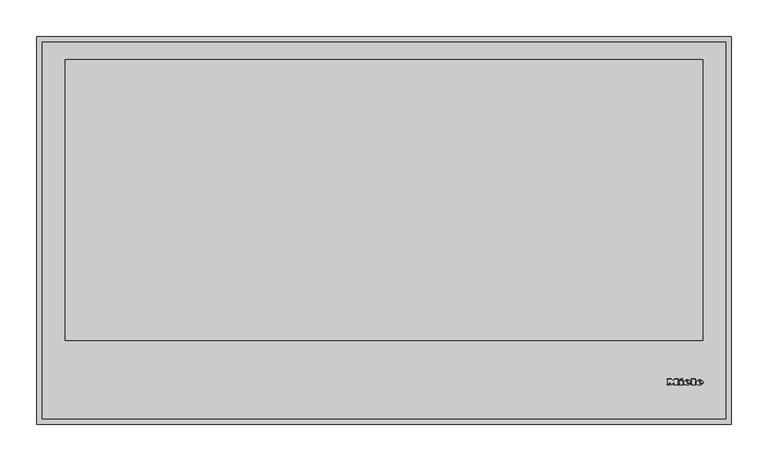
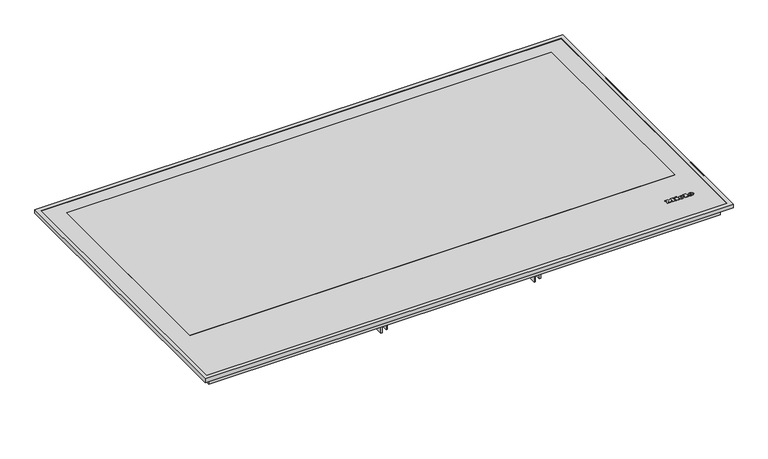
"""IFC4 building model written with IfcOpenShell, lengths in millimetres: proxy geometry, 11128760_D_KM7697FR : 26769700_D_11128760_KM7697FR."""

from ifc_helpers import new_model, si_unit, point, frame, frame_2d, origin, place, context, project, spatial, polyline, circle_curve, ellipse_curve, trimmed, segment, composite_curve, outline, extrude, faceted_brep, source, transform, mapped, element, save
from ifc_brep_helpers import plane_surface, cylinder_surface, revolved_surface, extruded_surface, advanced_brep


def specialty_equipment_5698b96c(model_context):
    return source(origin(), model_context, "Body", "SolidModel", [
        advanced_brep(
        [(427.56, 55.3948833, 6.4802537), (427.56, 56.2028828, 6.4811551), (432.912, 56.2028828, 6.4811551), (423.6, 56.2028828, 6.4811551), (425.8, 53.4988845, 6.4781386), (432.776, 55.3948833, 6.4802537), (430.36, 55.3948833, 6.4802537), (428.456, 54.4988838, 6.4792542), (427.56, 57.2268821, 6.4822974), (427.56, 58.0988816, 6.4832701), (428.928, 58.0988816, 6.4832701), (428.928, 57.2268821, 6.4822974), (427.56, 55.3959988, 5.4802543), (428.456, 54.4999994, 5.4792548), (430.36, 55.3959988, 5.4802543), (432.776, 55.3959988, 5.4802543), (425.8, 53.5, 5.4781393), (423.6, 56.2039983, 5.4811557), (432.912, 56.2039983, 5.4811557), (427.56, 56.2039983, 5.4811557), (427.56, 57.2279977, 5.482298), (428.928, 57.2279977, 5.482298), (428.928, 58.0999971, 5.4832707), (427.56, 58.0999971, 5.4832707)],
        [
            (0, 1),
            (1, 2),
            (2, 3, ellipse_curve(frame((428.256, 56.2028828, 6.4811551), z_axis=(0.0, -0.0011155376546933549, 0.9999993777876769), x_axis=(-1.0, 0.0, 0.0)), 4.656, 3.848)),
            (3, 4, circle_curve(frame((426.6960436, 56.4748826, 6.4814585), z_axis=(0.0, -0.0011155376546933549, 0.9999993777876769), x_axis=(0.0, -0.9999993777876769, -0.0011155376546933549)), 3.1079688)),
            (4, 5, circle_curve(frame((428.1627936, 58.5868813, 6.4838145), z_axis=(0.0, -0.0011155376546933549, 0.9999993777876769), x_axis=(0.0, -0.9999993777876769, -0.0011155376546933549)), 5.6098607)),
            (5, 6),
            (6, 7, circle_curve(frame((428.8470588, 56.1388828, 6.4810837), z_axis=(0.0, 0.0011155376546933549, -0.9999993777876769), x_axis=(0.0, -0.9999993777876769, -0.0011155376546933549)), 1.6859795)),
            (7, 0, circle_curve(frame((428.456, 55.3948833, 6.4802537), z_axis=(0.0, 0.0011155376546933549, -0.9999993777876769), x_axis=(0.0, -0.9999993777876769, -0.0011155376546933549)), 0.896)),
            (8, 9),
            (9, 10, circle_curve(frame((428.244, 58.0988816, 6.4832701), z_axis=(0.0, 0.0011155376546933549, -0.9999993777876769), x_axis=(0.0, -0.9999993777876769, -0.0011155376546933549)), 0.684)),
            (10, 11),
            (11, 8),
            (12, 13, circle_curve(frame((428.456, 55.3959988, 5.4802543), z_axis=(0.0, -0.0011155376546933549, 0.9999993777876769), x_axis=(0.0, -0.9999993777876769, -0.0011155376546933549)), 0.896)),
            (13, 14, circle_curve(frame((428.8470588, 56.1399984, 5.4810843), z_axis=(0.0, -0.0011155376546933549, 0.9999993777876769), x_axis=(0.0, -0.9999993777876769, -0.0011155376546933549)), 1.6859795)),
            (14, 15),
            (15, 16, circle_curve(frame((428.1627936, 58.5879968, 5.4838151), z_axis=(0.0, 0.0011155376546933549, -0.9999993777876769), x_axis=(0.0, -0.9999993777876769, -0.0011155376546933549)), 5.6098607)),
            (16, 17, circle_curve(frame((426.6960436, 56.4759981, 5.4814591), z_axis=(0.0, 0.0011155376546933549, -0.9999993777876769), x_axis=(0.0, -0.9999993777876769, -0.0011155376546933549)), 3.1079688)),
            (17, 18, ellipse_curve(frame((428.256, 56.2039983, 5.4811557), z_axis=(0.0, 0.0011155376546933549, -0.9999993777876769), x_axis=(-1.0, 0.0, 0.0)), 4.656, 3.848)),
            (18, 19),
            (19, 12),
            (20, 21),
            (21, 22),
            (22, 23, circle_curve(frame((428.244, 58.0999971, 5.4832707), z_axis=(0.0, -0.0011155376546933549, 0.9999993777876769), x_axis=(0.0, -0.9999993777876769, -0.0011155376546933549)), 0.684)),
            (23, 20),
            (0, 12),
            (19, 1),
            (18, 2),
            (5, 15),
            (14, 6),
            (17, 3),
            (13, 7),
            (16, 4),
            (8, 20),
            (23, 9),
            (22, 10),
            (21, 11),
        ],
        [
            plane_surface(frame((427.56, 56.2028828, 6.4811551), z_axis=(0.0, -0.0011155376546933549, 0.9999993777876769), x_axis=(0.0, 0.9999993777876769, 0.0011155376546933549))),
            plane_surface(frame((427.56, 56.2039983, 5.4811557), z_axis=(0.0, 0.0011155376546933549, -0.9999993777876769), x_axis=(0.0, -0.9999993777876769, -0.0011155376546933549))),
            plane_surface(frame((427.56, 55.3948833, 6.4802537), z_axis=(1.0000000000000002, 0.0, 0.0), x_axis=(0.0, 0.001115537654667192, -0.999999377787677))),
            plane_surface(frame((427.56, 56.2028828, 6.4811551), z_axis=(0.0, -0.999999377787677, -0.001115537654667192), x_axis=(0.0, 0.001115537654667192, -0.999999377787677))),
            plane_surface(frame((432.776, 55.3948833, 6.4802537), z_axis=(0.0, 0.999999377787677, 0.001115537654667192), x_axis=(0.0, 0.001115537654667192, -0.999999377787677))),
            extruded_surface(trimmed(ellipse_curve(frame((428.256, 56.2051139, 4.4811563), z_axis=(0.0, -0.0011155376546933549, 0.9999993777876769), x_axis=(-1.0, 0.0, 0.0)), 4.656, 3.848), [point((432.912, 56.2051139, 4.4811563))], [point((423.6, 56.2051139, 4.4811563))], True, "CARTESIAN"), (0.0, -0.001115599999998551, 0.9999994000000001), 1.00000002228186),
            revolved_surface(polyline([(428.8470588, 54.454019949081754, 5.479203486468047), (428.8470588, 54.45290441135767, 6.4792029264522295)]), (428.8470588, 56.1399984, 5.4810843), (0.0, 0.0011155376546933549, -0.9999993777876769)),
            revolved_surface(polyline([(428.456, 54.49999935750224, 5.479254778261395), (428.456, 54.49888381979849, 6.479254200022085)]), (428.456, 55.3959988, 5.4802543), (0.0, 0.0011155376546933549, -0.9999993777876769)),
            cylinder_surface(frame((426.6960436, 56.4759981, 5.4814591), z_axis=(0.0, -0.0011155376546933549, 0.9999993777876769), x_axis=(0.0, -0.9999993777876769, -0.0011155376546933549)), 3.1079688),
            cylinder_surface(frame((428.1627936, 58.5879968, 5.4838151), z_axis=(0.0, -0.0011155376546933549, 0.9999993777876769), x_axis=(0.0, -0.9999993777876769, -0.0011155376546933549)), 5.6098607),
            plane_surface(frame((427.56, 57.2268821, 6.4822974), z_axis=(1.0000000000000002, 0.0, 0.0), x_axis=(0.0, 0.001115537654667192, -0.999999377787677))),
            revolved_surface(polyline([(428.244, 57.415997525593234, 5.48250767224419), (428.244, 57.41488198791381, 6.482507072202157)]), (428.244, 58.0999971, 5.4832707), (0.0, 0.0011155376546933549, -0.9999993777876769)),
            plane_surface(frame((428.928, 58.0988816, 6.4832701), z_axis=(-1.0000000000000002, 0.0, 0.0), x_axis=(0.0, 0.001115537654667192, -0.999999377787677))),
            plane_surface(frame((428.928, 57.2268821, 6.4822974), z_axis=(0.0, 0.999999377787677, 0.001115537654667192), x_axis=(0.0, 0.001115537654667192, -0.999999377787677))),
        ],
        [
            (0, [[1, 2, 3, 4, 5, 6, 7, 8], [9, 10, 11, 12]]),
            (1, [[13, 14, 15, 16, 17, 18, 19, 20], [21, 22, 23, 24]]),
            (2, [[-1, 25, -20, 26]]),
            (3, [[-2, -26, -19, 27]]),
            (4, [[-6, 28, -15, 29]]),
            (5, [[-3, -27, -18, 30]]),
            (6, [[-7, -29, -14, 31]]),
            (7, [[-8, -31, -13, -25]]),
            (8, [[-4, -30, -17, 32]]),
            (9, [[-5, -32, -16, -28]]),
            (10, [[-9, 33, -24, 34]]),
            (11, [[-10, -34, -23, 35]]),
            (12, [[-11, -35, -22, 36]]),
            (13, [[-12, -36, -21, -33]]),
        ],
    ),
        advanced_brep(
        [(410.864, 55.3948833, 6.4802537), (410.864, 56.2028828, 6.4811551), (416.216, 56.2028828, 6.4811551), (406.904, 56.2028828, 6.4811551), (409.104, 53.4988845, 6.4781386), (416.08, 55.3948833, 6.4802537), (413.664, 55.3948833, 6.4802537), (411.76, 54.4988838, 6.4792542), (410.864, 57.2268821, 6.4822974), (410.864, 58.0988816, 6.4832701), (412.232, 58.0988816, 6.4832701), (412.232, 57.2268821, 6.4822974), (410.864, 55.3959988, 5.4802543), (411.76, 54.4999994, 5.4792548), (413.664, 55.3959988, 5.4802543), (416.08, 55.3959988, 5.4802543), (409.104, 53.5, 5.4781393), (406.904, 56.2039983, 5.4811557), (416.216, 56.2039983, 5.4811557), (410.864, 56.2039983, 5.4811557), (410.864, 57.2279977, 5.482298), (412.232, 57.2279977, 5.482298), (412.232, 58.0999971, 5.4832707), (410.864, 58.0999971, 5.4832707)],
        [
            (0, 1),
            (1, 2),
            (2, 3, ellipse_curve(frame((411.56, 56.2028828, 6.4811551), z_axis=(0.0, -0.0011155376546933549, 0.9999993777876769), x_axis=(-1.0, 0.0, 0.0)), 4.656, 3.848)),
            (3, 4, circle_curve(frame((410.0000436, 56.4748826, 6.4814585), z_axis=(0.0, -0.0011155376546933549, 0.9999993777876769), x_axis=(0.0, -0.9999993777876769, -0.0011155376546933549)), 3.1079688)),
            (4, 5, circle_curve(frame((411.4667936, 58.5868813, 6.4838145), z_axis=(0.0, -0.0011155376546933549, 0.9999993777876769), x_axis=(0.0, -0.9999993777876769, -0.0011155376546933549)), 5.6098607)),
            (5, 6),
            (6, 7, circle_curve(frame((412.1510588, 56.1388828, 6.4810837), z_axis=(0.0, 0.0011155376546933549, -0.9999993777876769), x_axis=(0.0, -0.9999993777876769, -0.0011155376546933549)), 1.6859795)),
            (7, 0, circle_curve(frame((411.76, 55.3948833, 6.4802537), z_axis=(0.0, 0.0011155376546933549, -0.9999993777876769), x_axis=(0.0, -0.9999993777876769, -0.0011155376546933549)), 0.896)),
            (8, 9),
            (9, 10, circle_curve(frame((411.548, 58.0988816, 6.4832701), z_axis=(0.0, 0.0011155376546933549, -0.9999993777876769), x_axis=(0.0, -0.9999993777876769, -0.0011155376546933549)), 0.684)),
            (10, 11),
            (11, 8),
            (12, 13, circle_curve(frame((411.76, 55.3959988, 5.4802543), z_axis=(0.0, -0.0011155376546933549, 0.9999993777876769), x_axis=(0.0, -0.9999993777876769, -0.0011155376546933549)), 0.896)),
            (13, 14, circle_curve(frame((412.1510588, 56.1399984, 5.4810843), z_axis=(0.0, -0.0011155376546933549, 0.9999993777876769), x_axis=(0.0, -0.9999993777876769, -0.0011155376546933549)), 1.6859795)),
            (14, 15),
            (15, 16, circle_curve(frame((411.4667936, 58.5879968, 5.4838151), z_axis=(0.0, 0.0011155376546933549, -0.9999993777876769), x_axis=(0.0, -0.9999993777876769, -0.0011155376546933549)), 5.6098607)),
            (16, 17, circle_curve(frame((410.0000436, 56.4759981, 5.4814591), z_axis=(0.0, 0.0011155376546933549, -0.9999993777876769), x_axis=(0.0, -0.9999993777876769, -0.0011155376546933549)), 3.1079688)),
            (17, 18, ellipse_curve(frame((411.56, 56.2039983, 5.4811557), z_axis=(0.0, 0.0011155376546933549, -0.9999993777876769), x_axis=(-1.0, 0.0, 0.0)), 4.656, 3.848)),
            (18, 19),
            (19, 12),
            (20, 21),
            (21, 22),
            (22, 23, circle_curve(frame((411.548, 58.0999971, 5.4832707), z_axis=(0.0, -0.0011155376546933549, 0.9999993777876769), x_axis=(0.0, -0.9999993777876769, -0.0011155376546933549)), 0.684)),
            (23, 20),
            (0, 12),
            (19, 1),
            (18, 2),
            (5, 15),
            (14, 6),
            (17, 3),
            (13, 7),
            (16, 4),
            (8, 20),
            (23, 9),
            (22, 10),
            (21, 11),
        ],
        [
            plane_surface(frame((410.864, 56.2028828, 6.4811551), z_axis=(0.0, -0.0011155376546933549, 0.9999993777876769), x_axis=(0.0, 0.9999993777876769, 0.0011155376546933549))),
            plane_surface(frame((410.864, 56.2039983, 5.4811557), z_axis=(0.0, 0.0011155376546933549, -0.9999993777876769), x_axis=(0.0, -0.9999993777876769, -0.0011155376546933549))),
            plane_surface(frame((410.864, 55.3948833, 6.4802537), z_axis=(1.0000000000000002, 0.0, 0.0), x_axis=(0.0, 0.001115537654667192, -0.999999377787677))),
            plane_surface(frame((410.864, 56.2028828, 6.4811551), z_axis=(0.0, -0.999999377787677, -0.001115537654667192), x_axis=(0.0, 0.001115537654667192, -0.999999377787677))),
            plane_surface(frame((416.08, 55.3948833, 6.4802537), z_axis=(0.0, 0.999999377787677, 0.001115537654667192), x_axis=(0.0, 0.001115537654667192, -0.999999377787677))),
            extruded_surface(trimmed(ellipse_curve(frame((411.56, 56.2051139, 4.4811563), z_axis=(0.0, -0.0011155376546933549, 0.9999993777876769), x_axis=(-1.0, 0.0, 0.0)), 4.656, 3.848), [point((416.216, 56.2051139, 4.4811563))], [point((406.904, 56.2051139, 4.4811563))], True, "CARTESIAN"), (0.0, -0.001115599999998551, 0.9999994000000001), 1.00000002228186),
            revolved_surface(polyline([(412.1510588, 54.454019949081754, 5.479203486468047), (412.1510588, 54.45290441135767, 6.4792029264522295)]), (412.1510588, 56.1399984, 5.4810843), (0.0, 0.0011155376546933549, -0.9999993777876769)),
            revolved_surface(polyline([(411.76, 54.49999935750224, 5.479254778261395), (411.76, 54.49888381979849, 6.479254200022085)]), (411.76, 55.3959988, 5.4802543), (0.0, 0.0011155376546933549, -0.9999993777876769)),
            cylinder_surface(frame((410.0000436, 56.4759981, 5.4814591), z_axis=(0.0, -0.0011155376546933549, 0.9999993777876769), x_axis=(0.0, -0.9999993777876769, -0.0011155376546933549)), 3.1079688),
            cylinder_surface(frame((411.4667936, 58.5879968, 5.4838151), z_axis=(0.0, -0.0011155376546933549, 0.9999993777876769), x_axis=(0.0, -0.9999993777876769, -0.0011155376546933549)), 5.6098607),
            plane_surface(frame((410.864, 57.2268821, 6.4822974), z_axis=(1.0000000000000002, 0.0, 0.0), x_axis=(0.0, 0.001115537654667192, -0.999999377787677))),
            revolved_surface(polyline([(411.548, 57.415997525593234, 5.48250767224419), (411.548, 57.41488198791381, 6.482507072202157)]), (411.548, 58.0999971, 5.4832707), (0.0, 0.0011155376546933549, -0.9999993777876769)),
            plane_surface(frame((412.232, 58.0988816, 6.4832701), z_axis=(-1.0000000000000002, 0.0, 0.0), x_axis=(0.0, 0.001115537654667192, -0.999999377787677))),
            plane_surface(frame((412.232, 57.2268821, 6.4822974), z_axis=(0.0, 0.999999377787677, 0.001115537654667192), x_axis=(0.0, 0.001115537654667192, -0.999999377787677))),
        ],
        [
            (0, [[1, 2, 3, 4, 5, 6, 7, 8], [9, 10, 11, 12]]),
            (1, [[13, 14, 15, 16, 17, 18, 19, 20], [21, 22, 23, 24]]),
            (2, [[-1, 25, -20, 26]]),
            (3, [[-2, -26, -19, 27]]),
            (4, [[-6, 28, -15, 29]]),
            (5, [[-3, -27, -18, 30]]),
            (6, [[-7, -29, -14, 31]]),
            (7, [[-8, -31, -13, -25]]),
            (8, [[-4, -30, -17, 32]]),
            (9, [[-5, -32, -16, -28]]),
            (10, [[-9, 33, -24, 34]]),
            (11, [[-10, -34, -23, 35]]),
            (12, [[-11, -35, -22, 36]]),
            (13, [[-12, -36, -21, -33]]),
        ],
    ),
        extrude(outline(polyline([(0.0, 0.0), (-0.0109086, -2.9993294), (-1.4390415, -2.9920868), (-1.4315307, 0.0), (0.0, 0.0)])), frame((402.12, 61.0279953, 5.486537), z_axis=(0.0, -0.001115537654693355, 0.999999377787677), x_axis=(-0.42472021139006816, 0.9053240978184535, 0.0010099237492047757)), (0.0, 0.0, 1.0), 1.0),
        extrude(outline(polyline([(-0.4933908, 2.4141097), (-2.7800844, -2.4601583), (-7.0459741, -0.4588767), (-7.4401145, -1.299018), (-8.6568709, -0.728194), (-5.9760369, 4.9862153), (-4.7592805, 4.4153913), (-5.1636142, 3.5535222), (-2.1941493, 2.1604399), (-1.7898157, 3.022309), (-0.4933908, 2.4141097)])), frame((402.12, 61.0279953, 5.486537), z_axis=(0.0, -0.001115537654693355, 0.999999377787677), x_axis=(-0.42472021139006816, 0.9053240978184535, 0.0010099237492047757)), (0.0, 0.0, 1.0), 1.0),
        extrude(outline(polyline([(0.0, 0.0), (0.0, -1.304), (-5.504, -1.304), (-5.504, 5.3519999), (-6.488, 5.3519999), (-6.488, 6.696), (0.0, 6.696), (0.0, 5.3519999), (-0.96, 5.3519999), (-0.96, 0.0), (0.0, 0.0)])), frame((416.664, 60.1959958, 5.4856089), z_axis=(0.0, -0.0011155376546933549, 0.9999993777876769), x_axis=(-1.0, 0.0, 0.0)), (0.0, 0.0, 1.0), 1.0),
        extrude(outline(polyline([(0.0, 0.0), (0.0, -1.304), (-5.576, -1.304), (-7.92, 1.696), (-10.256, -1.304), (-15.128, -1.304), (-15.128, 0.0), (-14.112, 0.0), (-14.112, 5.3519999), (-15.128, 5.3519999), (-15.128, 6.696), (-8.744, 6.696), (-8.744, 5.3519999), (-9.728, 5.3519999), (-9.728, 1.8807777), (-6.136, 6.696), (-2.56, 1.9488752), (-2.56, 5.3519999), (-3.52, 5.3519999), (-3.52, 6.696), (0.0, 6.696), (0.0, 5.3519999), (-0.968, 5.3519999), (-0.968, 0.0), (0.0, 0.0)])), frame((384.2, 60.1959958, 5.4856089), z_axis=(0.0, -0.0011155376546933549, 0.9999993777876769), x_axis=(-1.0, 0.0, 0.0)), (0.0, 0.0, 1.0), 1.0),
        extrude(outline(polyline([(354.2772603, 462.5), (346.9, 462.5), (346.9, 463.7557039), (353.0215564, 463.7557039), (353.0215564, 467.0519266), (347.370889, 467.0519266), (347.370889, 468.3076304), (353.0215564, 468.3076304), (353.0215564, 471.2899271), (347.056963, 471.2899271), (347.056963, 472.545631), (354.2772603, 472.545631), (354.2772603, 462.5)])), frame((0.0, 0.0, -77.5), z_axis=(0.0, 0.0, 1.0), x_axis=(1.0, 0.0, 0.0)), (0.0, 0.0, 1.0), 1.0),
        extrude(outline(polyline([(345.0164442, 462.5), (338.7379248, 462.5), (338.7379248, 463.7557039), (343.7607403, 463.7557039), (343.7607403, 472.545631), (345.0164442, 472.545631), (345.0164442, 462.5)])), frame((0.0, 0.0, -77.5), z_axis=(0.0, 0.0, 1.0), x_axis=(1.0, 0.0, 0.0)), (0.0, 0.0, 1.0), 1.0),
        extrude(outline(polyline([(17.0, -27.0), (17.0, -16.8), (61.0, -16.8), (61.0, -43.0), (33.0, -43.0), (33.0, -27.0), (17.0, -27.0)])), frame((135.3333333, 0.0, 0.0), z_axis=(1.0, 0.0, 0.0), x_axis=(0.0, 1.0, 0.0)), (0.0, 0.0, 1.0), 2.0),
        extrude(outline(polyline([(481.0, -16.8), (509.0, -16.8), (509.0, -27.0), (493.0, -27.0), (493.0, -43.0), (481.0, -43.0), (481.0, -16.8)])), frame((135.3333333, 0.0, 0.0), z_axis=(1.0, 0.0, 0.0), x_axis=(0.0, 1.0, 0.0)), (0.0, 0.0, 1.0), 2.0),
        extrude(outline(polyline([(17.0, -27.0), (17.0, -16.8), (61.0, -16.8), (61.0, -43.0), (33.0, -43.0), (33.0, -27.0), (17.0, -27.0)])), frame((-138.3333333, 0.0, 0.0), z_axis=(1.0, 0.0, 0.0), x_axis=(0.0, 1.0, 0.0)), (0.0, 0.0, 1.0), 2.0),
        extrude(outline(polyline([(493.0, -27.0), (493.0, -43.0), (481.0, -43.0), (481.0, -16.8), (509.0, -16.8), (509.0, -27.0), (493.0, -27.0)])), frame((-138.3333333, 0.0, 0.0), z_axis=(1.0, 0.0, 0.0), x_axis=(0.0, 1.0, 0.0)), (0.0, 0.0, 1.0), 2.0),
        extrude(outline(polyline([(409.0, 481.0), (409.0, 61.0), (-409.0, 61.0), (-409.0, 481.0), (409.0, 481.0)])), frame((0.0, 0.0, -46.5), z_axis=(0.0, 0.0, 1.0), x_axis=(1.0, 0.0, 0.0)), (0.0, 0.0, 1.0), 29.7),
        extrude(outline(polyline([(470.0, 524.0), (470.0, 1.0), (-470.0, 1.0), (-470.0, 524.0), (470.0, 524.0)])), frame((0.0, 0.0, 2.0), z_axis=(0.0, 0.0, 1.0), x_axis=(1.0, 0.0, 0.0)), (0.0, 0.0, 1.0), 4.0),
        extrude(outline(polyline([(456.5, 511.5), (456.5, 14.5), (-456.5, 14.5), (-456.5, 511.5), (456.5, 511.5)])), frame((0.0, 0.0, -16.8), z_axis=(0.0, 0.0, 1.0), x_axis=(1.0, 0.0, 0.0)), (0.0, 0.0, 1.0), 18.8),
        faceted_brep([(464.0, 519.0, 7.0), (464.0, 519.0, 6.0), (464.0, 7.0, 6.0), (464.0, 7.0, 7.0), (471.0, 526.0, 0.0), (471.0, 526.0, 7.0), (471.0, 0.0, 7.0), (471.0, 0.0, 0.0), (470.0, 525.0, 6.0), (470.0, 525.0, 0.0), (470.0, 1.0, 0.0), (470.0, 1.0, 6.0), (-464.0, 7.0, 6.0), (-464.0, 7.0, 7.0), (-471.0, 0.0, 7.0), (-471.0, 0.0, 0.0), (-470.0, 1.0, 0.0), (-470.0, 1.0, 6.0), (-464.0, 519.0, 6.0), (-464.0, 519.0, 7.0), (-471.0, 526.0, 7.0), (-471.0, 526.0, 0.0), (-470.0, 525.0, 0.0), (-470.0, 525.0, 6.0)], [[[0, 1, 2, 3]], [[4, 5, 6, 7]], [[8, 9, 10, 11]], [[3, 2, 12, 13]], [[7, 6, 14, 15]], [[11, 10, 16, 17]], [[13, 12, 18, 19]], [[15, 14, 20, 21]], [[17, 16, 22, 23]], [[19, 18, 1, 0]], [[5, 20, 14, 6], [3, 13, 19, 0]], [[21, 20, 5, 4]], [[7, 15, 21, 4], [9, 22, 16, 10]], [[23, 22, 9, 8]], [[11, 17, 23, 8], [1, 18, 12, 2]]]),
        extrude(outline(composite_curve([segment(trimmed(circle_curve(frame_2d((346.9, 467.5)), 7.5), [point((346.9, 475.0))], [point((346.9, 460.0))], False, "CARTESIAN"), True, "CONTINUOUS"), segment(trimmed(circle_curve(frame_2d((346.9, 467.5)), 7.5), [point((346.9, 460.0))], [point((346.9, 475.0))], False, "CARTESIAN"), True, "CONTINUOUS")], self_intersect=False)), frame((0.0, 0.0, -76.5), z_axis=(0.0, 0.0, 1.0), x_axis=(1.0, 0.0, 0.0)), (0.0, 0.0, 1.0), 30.0),
        extrude(outline(polyline([(432.5, 495.05), (432.5, 113.55), (-432.5, 113.55), (-432.5, 495.05), (432.5, 495.05)])), frame((0.0, 0.0, 6.0), z_axis=(0.0, 0.0, 1.0), x_axis=(1.0, 0.0, 0.0)), (0.0, 0.0, 1.0), 1.0),
        extrude(outline(composite_curve([segment(trimmed(circle_curve(frame_2d((-449.0, 83.0)), 3.0), [point((-449.0, 86.0))], [point((-449.0, 80.0))], False, "CARTESIAN"), True, "CONTINUOUS"), segment(trimmed(circle_curve(frame_2d((-449.0, 83.0)), 3.0), [point((-449.0, 80.0))], [point((-449.0, 86.0))], False, "CARTESIAN"), True, "CONTINUOUS")], self_intersect=False)), frame((0.0, 0.0, -22.0), z_axis=(0.0, 0.0, 1.0), x_axis=(1.0, 0.0, 0.0)), (0.0, 0.0, 1.0), 5.2),
        extrude(outline(composite_curve([segment(trimmed(circle_curve(frame_2d((449.0, 443.0)), 3.0), [point((449.0, 446.0))], [point((449.0, 440.0))], False, "CARTESIAN"), True, "CONTINUOUS"), segment(trimmed(circle_curve(frame_2d((449.0, 443.0)), 3.0), [point((449.0, 440.0))], [point((449.0, 446.0))], False, "CARTESIAN"), True, "CONTINUOUS")], self_intersect=False)), frame((0.0, 0.0, -22.0), z_axis=(0.0, 0.0, 1.0), x_axis=(1.0, 0.0, 0.0)), (0.0, 0.0, 1.0), 5.2),
    ])


if __name__ == "__main__":
    model = new_model("IFC4")
    model_context = context("Model", 3, world=origin())
    ifc_project = project(units=[si_unit("LENGTHUNIT", "METRE", prefix="MILLI")], contexts=[model_context])
    site = spatial("IfcSite", under=ifc_project)
    building = spatial("IfcBuilding", under=site)
    placement = place(None, origin())
    specialty_equipment_shape = specialty_equipment_5698b96c(model_context)
    element("IfcBuildingElementProxy", 1, Name="11128760_D_KM7697FR : 26769700_D_11128760_KM7697FR", ObjectType="11128760_D_KM7697FR : 26769700_D_11128760_KM7697FR", at=placement, inside=building, context=model_context, shape_type="MappedRepresentation", body=[
        mapped(specialty_equipment_shape, transform((0.0, 0.0, 0.0), x_axis=(1.0, 0.0, 0.0), y_axis=(0.0, 1.0, 0.0), z_axis=(0.0, 0.0, 1.0))),
    ])
    save(model, "model.ifc")
